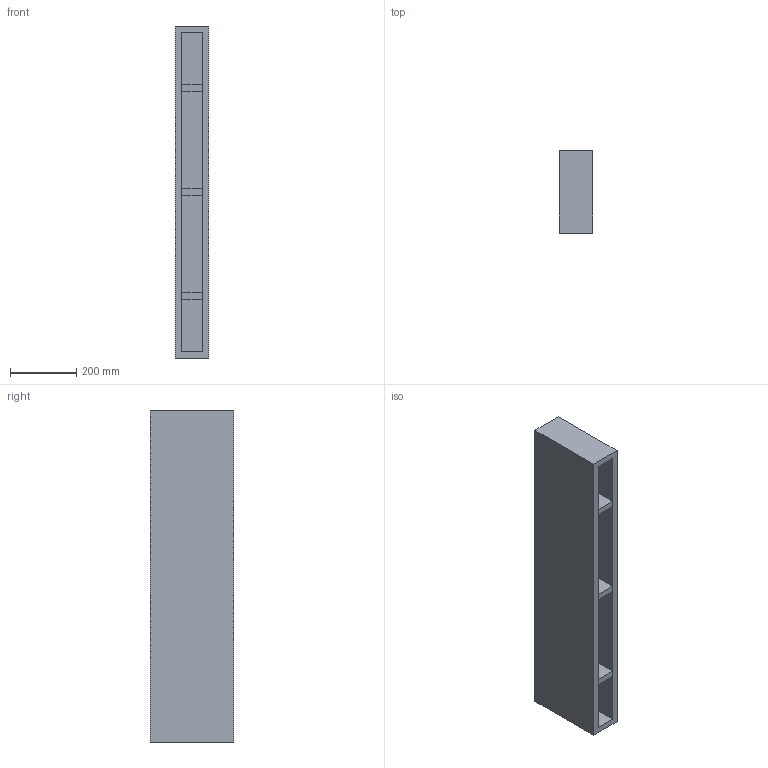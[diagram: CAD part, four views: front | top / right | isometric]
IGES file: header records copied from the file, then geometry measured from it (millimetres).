
Global section: file name: \\Archi-NAS\Comune\X GIOVANNI\MOBILI\BOISERIE + NICHE + COVERWALL\COVERWALL 100.igs; native system: Rhinoceros ( Jan 17 2018 ); preprocessor: Trout Lake IGES 012 Jan 17 2018; date: 230608.093322; units: millimetre
Bounding box: 100 x 250 x 1000 mm (x, y, z)
Surface area: 1420246 mm2 (no closed solid volume)
Topology: 0 solids, 0 shells, 34 faces, 144 edges, 144 vertices
Faces by surface type: bspline 34
